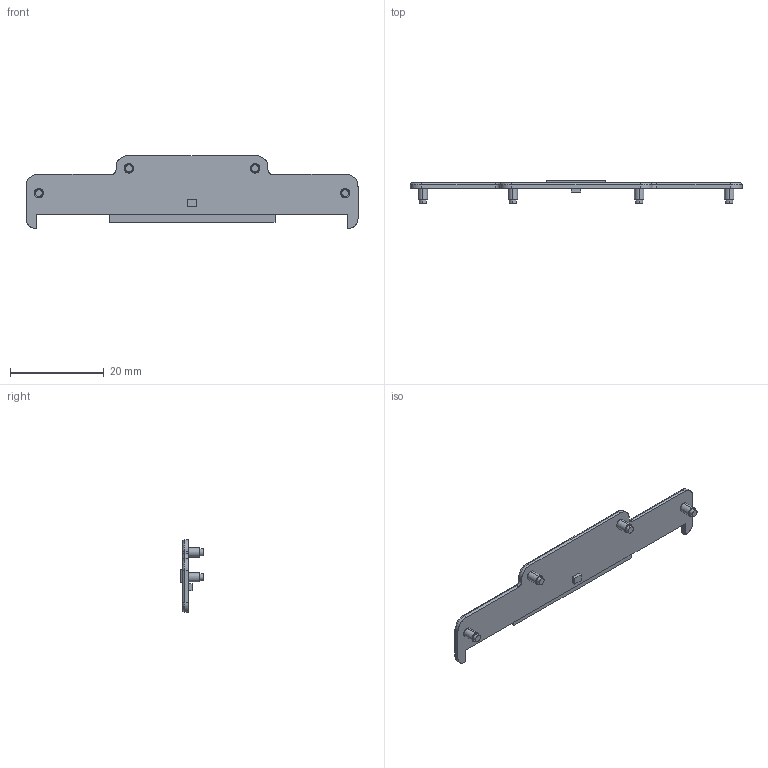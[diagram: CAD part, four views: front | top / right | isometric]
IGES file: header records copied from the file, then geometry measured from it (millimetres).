
Start section: SolidWorks IGES file using analytic representation for surfaces
Global section: file name: D:\X - Arquivos\PROEX\Empresas\P11 - METALTEX\01 - Produtos\IGES\7ª remessa\2ª etapa\SP7-C.IGS; native system: SolidWorks 2012; preprocessor: SolidWorks 2012; author: Usuario; date: 190912.135030; units: millimetre
Bounding box: 71 x 5 x 15.5 mm (x, y, z)
Surface area: 1953.2 mm2 (no closed solid volume)
Topology: 0 solids, 0 shells, 169 faces, 1316 edges, 1314 vertices
Faces by surface type: bspline 135, revolution 34
